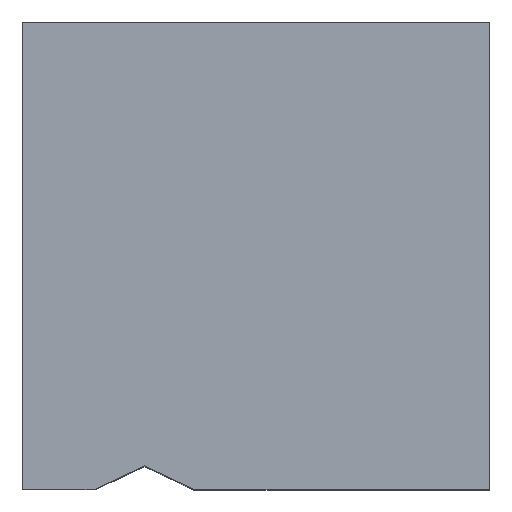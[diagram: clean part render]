
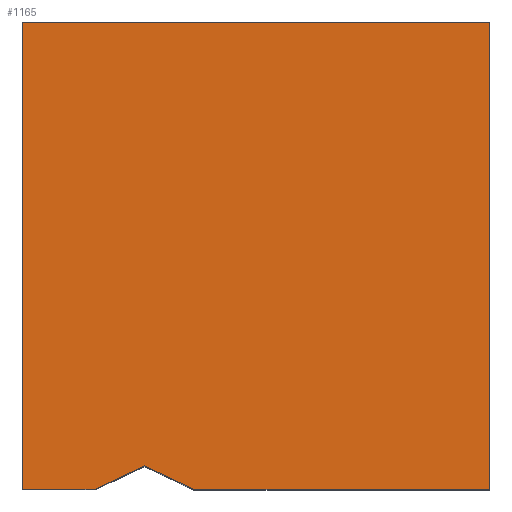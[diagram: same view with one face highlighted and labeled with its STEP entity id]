
A CAD part, top view. The second image highlights one B-rep face of the part: STEP entity #1165.
In plain terms, the highlighted planar face has unit normal (0, 0, 1).
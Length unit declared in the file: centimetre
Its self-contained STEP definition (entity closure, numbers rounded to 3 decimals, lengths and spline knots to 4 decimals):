
#3 = DIRECTION ( 'NONE',  ( 0., 1., 0. ) ) ;
#15 = LINE ( 'NONE', #398, #934 ) ;
#19 = LINE ( 'NONE', #556, #440 ) ;
#22 = CARTESIAN_POINT ( 'NONE',  ( 155.5853, 0., 1000. ) ) ;
#31 = CARTESIAN_POINT ( 'NONE',  ( 0., 0., 1000. ) ) ;
#65 = VERTEX_POINT ( 'NONE', #1409 ) ;
#85 = EDGE_CURVE ( 'NONE', #215, #1417, #763, .T. ) ;
#88 = ORIENTED_EDGE ( 'NONE', *, *, #1043, .T. ) ;
#97 = DIRECTION ( 'NONE',  ( 0.904, -0.428, 0. ) ) ;
#116 = ORIENTED_EDGE ( 'NONE', *, *, #1153, .T. ) ;
#164 = VECTOR ( 'NONE', #1206, 100. ) ;
#215 = VERTEX_POINT ( 'NONE', #1106 ) ;
#272 = LINE ( 'NONE', #406, #954 ) ;
#307 = LINE ( 'NONE', #314, #164 ) ;
#314 = CARTESIAN_POINT ( 'NONE',  ( 0., 1000., 1000. ) ) ;
#353 = ORIENTED_EDGE ( 'NONE', *, *, #592, .T. ) ;
#376 = VERTEX_POINT ( 'NONE', #1012 ) ;
#393 = VECTOR ( 'NONE', #97, 100. ) ;
#398 = CARTESIAN_POINT ( 'NONE',  ( 0., 1000., 1000. ) ) ;
#406 = CARTESIAN_POINT ( 'NONE',  ( 1000., 1000., 1000. ) ) ;
#440 = VECTOR ( 'NONE', #942, 100. ) ;
#483 = EDGE_CURVE ( 'NONE', #797, #1461, #272, .T. ) ;
#495 = CARTESIAN_POINT ( 'NONE',  ( 366.8792, 0., 1000. ) ) ;
#556 = CARTESIAN_POINT ( 'NONE',  ( 0., 0., 1000. ) ) ;
#565 = PLANE ( 'NONE',  #1160 ) ;
#568 = EDGE_CURVE ( 'NONE', #1461, #65, #15, .T. ) ;
#592 = EDGE_CURVE ( 'NONE', #376, #1592, #19, .T. ) ;
#671 = VECTOR ( 'NONE', #1194, 100. ) ;
#686 = DIRECTION ( 'NONE',  ( 0., 0., 1. ) ) ;
#763 = LINE ( 'NONE', #1270, #393 ) ;
#794 = DIRECTION ( 'NONE',  ( -1., 0., 0. ) ) ;
#797 = VERTEX_POINT ( 'NONE', #1671 ) ;
#821 = LINE ( 'NONE', #941, #1056 ) ;
#825 = FACE_OUTER_BOUND ( 'NONE', #1104, .T. ) ;
#831 = DIRECTION ( 'NONE',  ( 1., 0., 0. ) ) ;
#832 = ORIENTED_EDGE ( 'NONE', *, *, #85, .T. ) ;
#833 = LINE ( 'NONE', #22, #671 ) ;
#934 = VECTOR ( 'NONE', #794, 100. ) ;
#941 = CARTESIAN_POINT ( 'NONE',  ( 0., 0., 1000. ) ) ;
#942 = DIRECTION ( 'NONE',  ( 1., 0., 0. ) ) ;
#954 = VECTOR ( 'NONE', #3, 100. ) ;
#1012 = CARTESIAN_POINT ( 'NONE',  ( 0., 0., 1000. ) ) ;
#1043 = EDGE_CURVE ( 'NONE', #1417, #797, #821, .T. ) ;
#1056 = VECTOR ( 'NONE', #1479, 100. ) ;
#1068 = EDGE_CURVE ( 'NONE', #1592, #215, #833, .T. ) ;
#1070 = CARTESIAN_POINT ( 'NONE',  ( 155.5853, 0., 1000. ) ) ;
#1104 = EDGE_LOOP ( 'NONE', ( #832, #88, #1247, #1404, #116, #353, #1588 ) ) ;
#1106 = CARTESIAN_POINT ( 'NONE',  ( 261.2323, 50., 1000. ) ) ;
#1153 = EDGE_CURVE ( 'NONE', #65, #376, #307, .T. ) ;
#1160 = AXIS2_PLACEMENT_3D ( 'NONE', #31, #686, #831 ) ;
#1165 = ADVANCED_FACE ( 'NONE', ( #825 ), #565, .T. ) ;
#1194 = DIRECTION ( 'NONE',  ( 0.904, 0.428, 0. ) ) ;
#1206 = DIRECTION ( 'NONE',  ( 0., -1., 0. ) ) ;
#1247 = ORIENTED_EDGE ( 'NONE', *, *, #483, .T. ) ;
#1270 = CARTESIAN_POINT ( 'NONE',  ( 261.2323, 50., 1000. ) ) ;
#1404 = ORIENTED_EDGE ( 'NONE', *, *, #568, .T. ) ;
#1409 = CARTESIAN_POINT ( 'NONE',  ( 0., 1000., 1000. ) ) ;
#1417 = VERTEX_POINT ( 'NONE', #495 ) ;
#1461 = VERTEX_POINT ( 'NONE', #1658 ) ;
#1479 = DIRECTION ( 'NONE',  ( 1., 0., 0. ) ) ;
#1588 = ORIENTED_EDGE ( 'NONE', *, *, #1068, .T. ) ;
#1592 = VERTEX_POINT ( 'NONE', #1070 ) ;
#1658 = CARTESIAN_POINT ( 'NONE',  ( 1000., 1000., 1000. ) ) ;
#1671 = CARTESIAN_POINT ( 'NONE',  ( 1000., 0., 1000. ) ) ;
